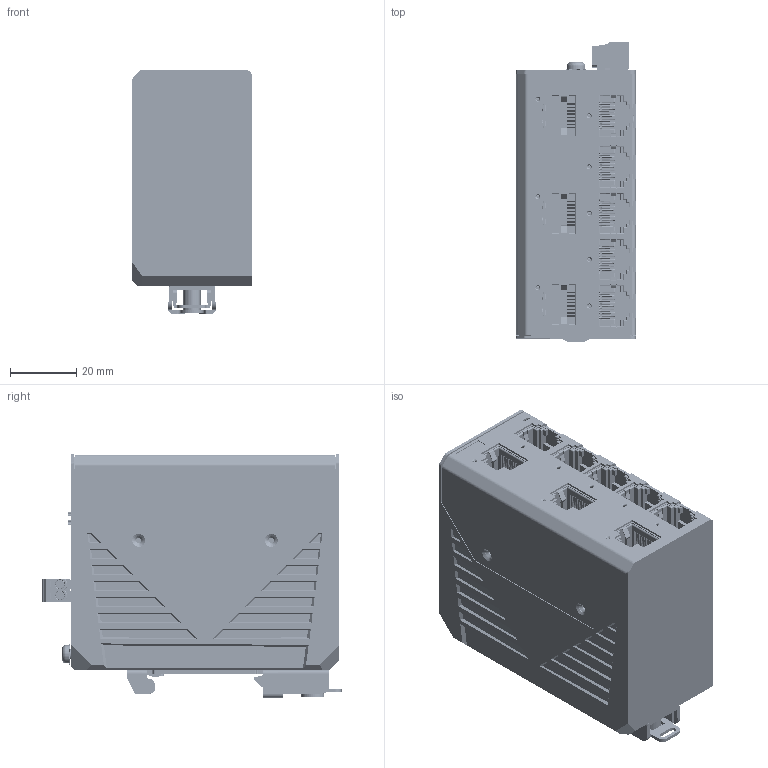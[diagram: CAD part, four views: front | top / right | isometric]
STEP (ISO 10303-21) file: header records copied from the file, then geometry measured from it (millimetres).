
FILE_DESCRIPTION((''),'2;1');
FILE_NAME('3D_EDS-G2008-EL','2023-01-09T16:36:56',('Dacia_Yao'),('PTC'),'CREO PARAMETRIC BY PTC INC, 2018020','CREO PARAMETRIC BY PTC INC, 2018020','');
FILE_SCHEMA(('AUTOMOTIVE_DESIGN { 1 0 10303 214 1 1 1 1 }'));
Products named in the file (1): 3D_EDS-G2008-EL
Bounding box: 36 x 90.2 x 73.49 mm (x, y, z)
Volume: 16801.1 mm3; surface area: 103046 mm2
Topology: 10 solids, 27 shells, 13843 faces, 40706 edges, 26247 vertices
Faces by surface type: plane 10394, cylinder 2864, torus 204, sphere 172, cone 170, bspline 31, extrusion 8
Entity records: 467562 total; most frequent: CARTESIAN_POINT 94437, ORIENTED_EDGE 80551, DIRECTION 72249, EDGE_CURVE 40536, VECTOR 32679, LINE 32671, VERTEX_POINT 26247, AXIS2_PLACEMENT_3D 19785
